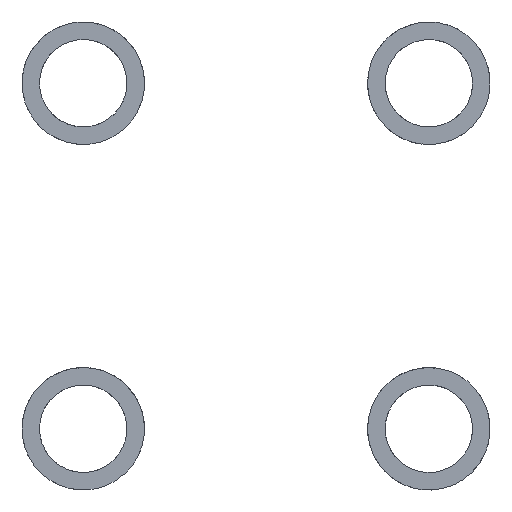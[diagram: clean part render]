
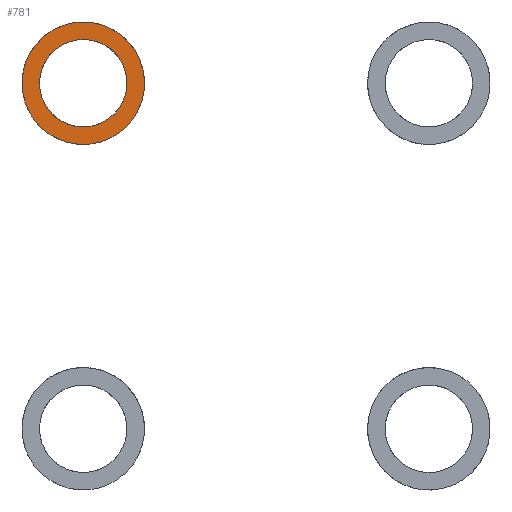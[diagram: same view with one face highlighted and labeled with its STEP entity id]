
A CAD part, front view. The second image highlights one B-rep face of the part: STEP entity #781.
In plain terms, the highlighted planar face has unit normal (0, -1, 0).
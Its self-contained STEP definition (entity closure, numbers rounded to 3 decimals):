
#42=FACE_BOUND('',#165,.T.);
#65=CIRCLE('',#824,4.5);
#81=CIRCLE('',#852,3.213);
#121=FACE_OUTER_BOUND('',#164,.T.);
#164=EDGE_LOOP('',(#632));
#165=EDGE_LOOP('',(#633));
#367=VERTEX_POINT('',#1391);
#368=VERTEX_POINT('',#1420);
#451=EDGE_CURVE('',#367,#367,#65,.T.);
#467=EDGE_CURVE('',#368,#368,#81,.F.);
#632=ORIENTED_EDGE('',*,*,#451,.T.);
#633=ORIENTED_EDGE('',*,*,#467,.F.);
#747=PLANE('',#851);
#781=ADVANCED_FACE('',(#121,#42),#747,.T.);
#824=AXIS2_PLACEMENT_3D('',#1392,#976,#977);
#851=AXIS2_PLACEMENT_3D('',#1419,#1030,#1031);
#852=AXIS2_PLACEMENT_3D('',#1421,#1032,#1033);
#976=DIRECTION('center_axis',(0.,-1.,0.));
#977=DIRECTION('ref_axis',(0.,0.,-1.));
#1030=DIRECTION('center_axis',(0.,-1.,0.));
#1031=DIRECTION('ref_axis',(0.,0.,-1.));
#1032=DIRECTION('center_axis',(0.,1.,0.));
#1033=DIRECTION('ref_axis',(0.,0.,-1.));
#1391=CARTESIAN_POINT('',(0.,-1.41,11.464));
#1392=CARTESIAN_POINT('Origin',(0.,-1.41,6.964));
#1419=CARTESIAN_POINT('Origin',(0.,-1.41,3.751));
#1420=CARTESIAN_POINT('',(0.,-1.41,10.177));
#1421=CARTESIAN_POINT('Origin',(0.,-1.41,6.964));
